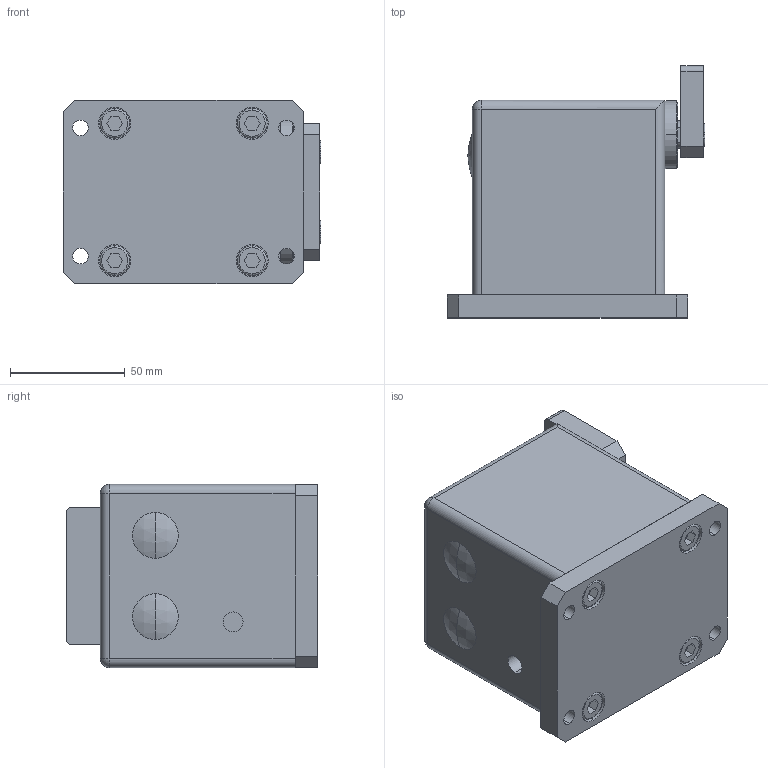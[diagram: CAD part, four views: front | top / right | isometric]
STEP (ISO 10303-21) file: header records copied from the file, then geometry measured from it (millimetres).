
FILE_DESCRIPTION (( 'STEP AP203' ), '1' );
FILE_NAME ('DBS150-EW.STEP', '2008-07-09T08:49:52', ( '' ), ( '' ), 'SwSTEP 2.0', 'SolidWorks 2007', '' );
FILE_SCHEMA (( 'CONFIG_CONTROL_DESIGN' ));
Length unit declared in the file: millimetre
Products named in the file (1): DBS150-EW
Bounding box: 112.5 x 110 x 80 mm (x, y, z)
Volume: 604267 mm3; surface area: 102081.5 mm2
Topology: 3 solids, 3 shells, 247 faces, 581 edges, 367 vertices
Faces by surface type: plane 124, cylinder 89, torus 14, cone 14, sphere 6
Entity records: 7110 total; most frequent: DIRECTION 1285, CARTESIAN_POINT 1190, ORIENTED_EDGE 1138, EDGE_CURVE 569, AXIS2_PLACEMENT_3D 470, VERTEX_POINT 367, VECTOR 345, LINE 345
